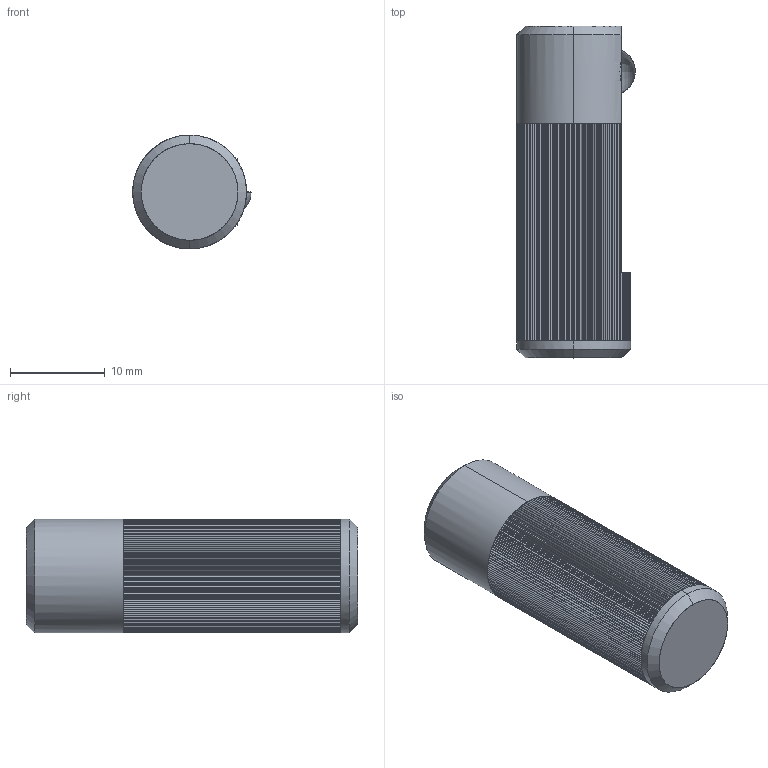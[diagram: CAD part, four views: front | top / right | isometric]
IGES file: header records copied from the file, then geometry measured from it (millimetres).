
Start section: SolidWorks IGES file using analytic representation for surfaces
Global section: file name: C:\Documents and Settings\IANO\Desktop\Temp File\Process pending\NEW\32800_v2\32800_v2_20170703_IGES\32800.W0112.igs; native system: SolidWorks 2009; preprocessor: SolidWorks 2009; author: IANO; date: 170630.125009; units: millimetre
Bounding box: 12.5 x 35 x 12 mm (x, y, z)
Surface area: 2490.9 mm2 (no closed solid volume)
Topology: 0 solids, 0 shells, 592 faces, 2809 edges, 2806 vertices
Faces by surface type: bspline 568, revolution 24
